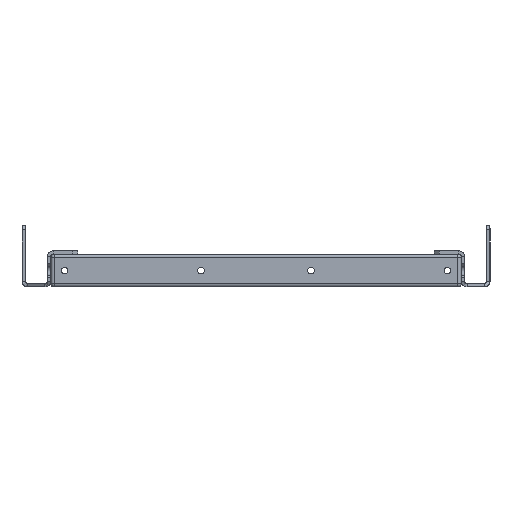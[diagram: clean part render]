
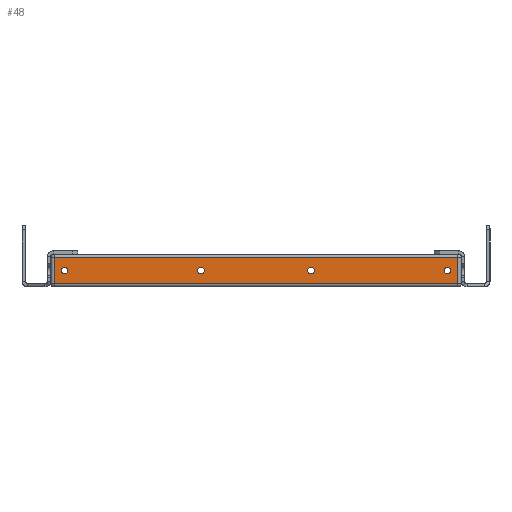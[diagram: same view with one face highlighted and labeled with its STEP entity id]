
A CAD part, left-side view. The second image highlights one B-rep face of the part: STEP entity #48.
In plain terms, the highlighted planar face has unit normal (-1, 0, 0).
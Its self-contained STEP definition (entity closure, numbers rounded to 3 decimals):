
#47 = CARTESIAN_POINT ( 'NONE',  ( -225., 116.5, 10. ) ) ;
#48 = ADVANCED_FACE ( 'NONE', ( #6868, #4318, #12091, #8838, #12265 ), #993, .F. ) ;
#60 = ORIENTED_EDGE ( 'NONE', *, *, #6393, .F. ) ;
#87 = DIRECTION ( 'NONE',  ( 1., 0., 0. ) ) ;
#146 = CIRCLE ( 'NONE', #4873, 2. ) ;
#177 = CARTESIAN_POINT ( 'NONE',  ( -225., -116.5, 10. ) ) ;
#198 = AXIS2_PLACEMENT_3D ( 'NONE', #3540, #3459, #421 ) ;
#224 = EDGE_CURVE ( 'NONE', #11131, #12312, #146, .T. ) ;
#301 = VECTOR ( 'NONE', #6106, 1000. ) ;
#309 = DIRECTION ( 'NONE',  ( 0., 0., 1. ) ) ;
#421 = DIRECTION ( 'NONE',  ( 0., 0., 1. ) ) ;
#518 = VERTEX_POINT ( 'NONE', #8799 ) ;
#583 = EDGE_LOOP ( 'NONE', ( #7115, #10853 ) ) ;
#719 = ORIENTED_EDGE ( 'NONE', *, *, #11261, .F. ) ;
#821 = CIRCLE ( 'NONE', #10353, 2. ) ;
#993 = PLANE ( 'NONE',  #5759 ) ;
#1039 = LINE ( 'NONE', #3650, #10339 ) ;
#1335 = VERTEX_POINT ( 'NONE', #8876 ) ;
#1836 = CARTESIAN_POINT ( 'NONE',  ( -225., -33.5, 10. ) ) ;
#2036 = EDGE_CURVE ( 'NONE', #4037, #11610, #8037, .T. ) ;
#2355 = DIRECTION ( 'NONE',  ( -1., 0., 0. ) ) ;
#2555 = DIRECTION ( 'NONE',  ( 1., 0., 0. ) ) ;
#2662 = VERTEX_POINT ( 'NONE', #5364 ) ;
#2711 = CARTESIAN_POINT ( 'NONE',  ( -225., 116.5, 8. ) ) ;
#2715 = EDGE_CURVE ( 'NONE', #2662, #11506, #4112, .T. ) ;
#2834 = ORIENTED_EDGE ( 'NONE', *, *, #8437, .T. ) ;
#2842 = DIRECTION ( 'NONE',  ( 1., 0., 0. ) ) ;
#2895 = DIRECTION ( 'NONE',  ( 0., 0., 1. ) ) ;
#3098 = CARTESIAN_POINT ( 'NONE',  ( -225., 123., 18. ) ) ;
#3106 = AXIS2_PLACEMENT_3D ( 'NONE', #9769, #8662, #5839 ) ;
#3112 = DIRECTION ( 'NONE',  ( 1., 0., 0. ) ) ;
#3201 = DIRECTION ( 'NONE',  ( -1., 0., 0. ) ) ;
#3232 = CARTESIAN_POINT ( 'NONE',  ( -225., -33.5, 12. ) ) ;
#3277 = CARTESIAN_POINT ( 'NONE',  ( -225., 33.5, 10. ) ) ;
#3383 = AXIS2_PLACEMENT_3D ( 'NONE', #47, #7705, #2895 ) ;
#3459 = DIRECTION ( 'NONE',  ( 1., 0., 0. ) ) ;
#3540 = CARTESIAN_POINT ( 'NONE',  ( -225., -116.5, 10. ) ) ;
#3650 = CARTESIAN_POINT ( 'NONE',  ( -225., 123., 20. ) ) ;
#3780 = CARTESIAN_POINT ( 'NONE',  ( -225., 33.5, 8. ) ) ;
#3867 = CARTESIAN_POINT ( 'NONE',  ( -225., -123., 20. ) ) ;
#4037 = VERTEX_POINT ( 'NONE', #2711 ) ;
#4112 = CIRCLE ( 'NONE', #198, 2. ) ;
#4118 = VERTEX_POINT ( 'NONE', #3098 ) ;
#4184 = EDGE_LOOP ( 'NONE', ( #719, #10913 ) ) ;
#4318 = FACE_BOUND ( 'NONE', #10638, .T. ) ;
#4417 = EDGE_CURVE ( 'NONE', #12107, #9628, #10107, .T. ) ;
#4767 = EDGE_CURVE ( 'NONE', #11506, #2662, #821, .T. ) ;
#4873 = AXIS2_PLACEMENT_3D ( 'NONE', #3277, #2355, #9161 ) ;
#4905 = AXIS2_PLACEMENT_3D ( 'NONE', #1836, #2842, #5775 ) ;
#5082 = EDGE_CURVE ( 'NONE', #9628, #12107, #11020, .T. ) ;
#5151 = CIRCLE ( 'NONE', #3106, 2. ) ;
#5251 = EDGE_LOOP ( 'NONE', ( #9002, #8949 ) ) ;
#5285 = CARTESIAN_POINT ( 'NONE',  ( -225., 116.5, 10. ) ) ;
#5364 = CARTESIAN_POINT ( 'NONE',  ( -225., -116.5, 12. ) ) ;
#5416 = VERTEX_POINT ( 'NONE', #10277 ) ;
#5759 = AXIS2_PLACEMENT_3D ( 'NONE', #11715, #3112, #10837 ) ;
#5764 = DIRECTION ( 'NONE',  ( 0., 0., 1. ) ) ;
#5775 = DIRECTION ( 'NONE',  ( 0., 0., 1. ) ) ;
#5839 = DIRECTION ( 'NONE',  ( 0., 0., 1. ) ) ;
#5889 = EDGE_LOOP ( 'NONE', ( #8836, #2834, #12502, #6050 ) ) ;
#6050 = ORIENTED_EDGE ( 'NONE', *, *, #8069, .T. ) ;
#6073 = VECTOR ( 'NONE', #5764, 1000. ) ;
#6106 = DIRECTION ( 'NONE',  ( 0., -1., 0. ) ) ;
#6393 = EDGE_CURVE ( 'NONE', #11610, #4037, #9801, .T. ) ;
#6749 = CARTESIAN_POINT ( 'NONE',  ( -225., 33.5, 12. ) ) ;
#6868 = FACE_BOUND ( 'NONE', #4184, .T. ) ;
#7115 = ORIENTED_EDGE ( 'NONE', *, *, #2715, .T. ) ;
#7606 = LINE ( 'NONE', #10609, #11609 ) ;
#7705 = DIRECTION ( 'NONE',  ( -1., 0., 0. ) ) ;
#7871 = ORIENTED_EDGE ( 'NONE', *, *, #2036, .F. ) ;
#7877 = DIRECTION ( 'NONE',  ( 0., 0., 1. ) ) ;
#7923 = LINE ( 'NONE', #12004, #301 ) ;
#8037 = CIRCLE ( 'NONE', #11653, 2. ) ;
#8069 = EDGE_CURVE ( 'NONE', #1335, #518, #7923, .T. ) ;
#8437 = EDGE_CURVE ( 'NONE', #5416, #4118, #7606, .T. ) ;
#8662 = DIRECTION ( 'NONE',  ( -1., 0., 0. ) ) ;
#8799 = CARTESIAN_POINT ( 'NONE',  ( -225., -123., 2. ) ) ;
#8836 = ORIENTED_EDGE ( 'NONE', *, *, #10857, .T. ) ;
#8838 = FACE_BOUND ( 'NONE', #583, .T. ) ;
#8876 = CARTESIAN_POINT ( 'NONE',  ( -225., 123., 2. ) ) ;
#8949 = ORIENTED_EDGE ( 'NONE', *, *, #5082, .T. ) ;
#9002 = ORIENTED_EDGE ( 'NONE', *, *, #4417, .T. ) ;
#9161 = DIRECTION ( 'NONE',  ( 0., 0., 1. ) ) ;
#9220 = CARTESIAN_POINT ( 'NONE',  ( -225., -116.5, 8. ) ) ;
#9307 = CARTESIAN_POINT ( 'NONE',  ( -225., 116.5, 12. ) ) ;
#9402 = DIRECTION ( 'NONE',  ( 0., 0., 1. ) ) ;
#9481 = CARTESIAN_POINT ( 'NONE',  ( -225., -33.5, 10. ) ) ;
#9628 = VERTEX_POINT ( 'NONE', #10742 ) ;
#9769 = CARTESIAN_POINT ( 'NONE',  ( -225., 33.5, 10. ) ) ;
#9801 = CIRCLE ( 'NONE', #3383, 2. ) ;
#10107 = CIRCLE ( 'NONE', #11003, 2. ) ;
#10277 = CARTESIAN_POINT ( 'NONE',  ( -225., -123., 18. ) ) ;
#10339 = VECTOR ( 'NONE', #10399, 1000. ) ;
#10353 = AXIS2_PLACEMENT_3D ( 'NONE', #177, #87, #7877 ) ;
#10399 = DIRECTION ( 'NONE',  ( 0., 0., -1. ) ) ;
#10609 = CARTESIAN_POINT ( 'NONE',  ( -225., 125., 18. ) ) ;
#10638 = EDGE_LOOP ( 'NONE', ( #60, #7871 ) ) ;
#10694 = DIRECTION ( 'NONE',  ( 0., 1., 0. ) ) ;
#10723 = EDGE_CURVE ( 'NONE', #4118, #1335, #1039, .T. ) ;
#10742 = CARTESIAN_POINT ( 'NONE',  ( -225., -33.5, 8. ) ) ;
#10837 = DIRECTION ( 'NONE',  ( 0., 0., -1. ) ) ;
#10853 = ORIENTED_EDGE ( 'NONE', *, *, #4767, .T. ) ;
#10857 = EDGE_CURVE ( 'NONE', #518, #5416, #11263, .T. ) ;
#10913 = ORIENTED_EDGE ( 'NONE', *, *, #224, .F. ) ;
#11003 = AXIS2_PLACEMENT_3D ( 'NONE', #9481, #2555, #9402 ) ;
#11020 = CIRCLE ( 'NONE', #4905, 2. ) ;
#11131 = VERTEX_POINT ( 'NONE', #3780 ) ;
#11261 = EDGE_CURVE ( 'NONE', #12312, #11131, #5151, .T. ) ;
#11263 = LINE ( 'NONE', #3867, #6073 ) ;
#11506 = VERTEX_POINT ( 'NONE', #9220 ) ;
#11609 = VECTOR ( 'NONE', #10694, 1000. ) ;
#11610 = VERTEX_POINT ( 'NONE', #9307 ) ;
#11653 = AXIS2_PLACEMENT_3D ( 'NONE', #5285, #3201, #309 ) ;
#11715 = CARTESIAN_POINT ( 'NONE',  ( -225., -125., 20. ) ) ;
#12004 = CARTESIAN_POINT ( 'NONE',  ( -225., -125., 2. ) ) ;
#12091 = FACE_OUTER_BOUND ( 'NONE', #5889, .T. ) ;
#12107 = VERTEX_POINT ( 'NONE', #3232 ) ;
#12265 = FACE_BOUND ( 'NONE', #5251, .T. ) ;
#12312 = VERTEX_POINT ( 'NONE', #6749 ) ;
#12502 = ORIENTED_EDGE ( 'NONE', *, *, #10723, .T. ) ;
